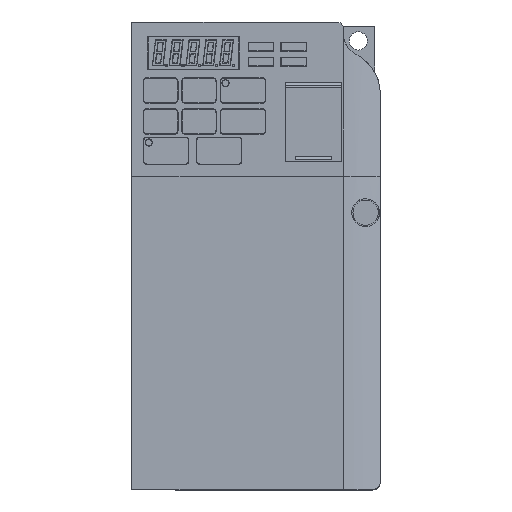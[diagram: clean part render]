
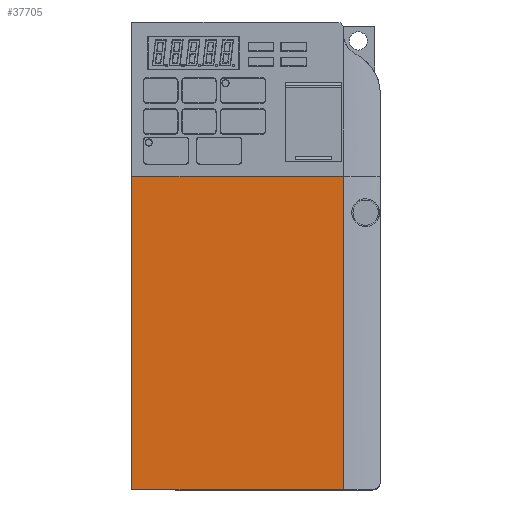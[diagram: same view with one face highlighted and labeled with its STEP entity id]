
A CAD part, top view. The second image highlights one B-rep face of the part: STEP entity #37705.
In plain terms, the highlighted planar face has unit normal (0, 0, 1).
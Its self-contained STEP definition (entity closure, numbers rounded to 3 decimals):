
#37321=DIRECTION('',(0.,1.,0.));
#37322=VECTOR('',#37321,85.8);
#37323=CARTESIAN_POINT('',(-64.,-75.8,8.));
#37324=LINE('',#37323,#37322);
#37405=DIRECTION('',(-1.,0.,0.));
#37406=VECTOR('',#37405,58.);
#37407=CARTESIAN_POINT('',(-6.,-75.8,8.));
#37408=LINE('',#37407,#37406);
#37418=DIRECTION('',(0.,-1.,0.));
#37419=VECTOR('',#37418,85.8);
#37420=CARTESIAN_POINT('',(-6.,10.,8.));
#37421=LINE('',#37420,#37419);
#37435=DIRECTION('',(1.,0.,0.));
#37436=VECTOR('',#37435,58.);
#37437=CARTESIAN_POINT('',(-64.,10.,8.));
#37438=LINE('',#37437,#37436);
#37611=CARTESIAN_POINT('',(-6.,-75.8,8.));
#37612=CARTESIAN_POINT('',(-64.,-75.8,8.));
#37613=VERTEX_POINT('',#37611);
#37614=VERTEX_POINT('',#37612);
#37680=CARTESIAN_POINT('',(-64.,10.,8.));
#37681=VERTEX_POINT('',#37680);
#37682=CARTESIAN_POINT('',(-6.,10.,8.));
#37683=VERTEX_POINT('',#37682);
#37690=CARTESIAN_POINT('',(-30.096,-32.779,8.));
#37691=DIRECTION('',(0.,0.,1.));
#37692=DIRECTION('',(1.,0.,0.));
#37693=AXIS2_PLACEMENT_3D('',#37690,#37691,#37692);
#37694=PLANE('',#37693);
#37696=ORIENTED_EDGE('',*,*,#37695,.T.);
#37698=ORIENTED_EDGE('',*,*,#37697,.T.);
#37700=ORIENTED_EDGE('',*,*,#37699,.T.);
#37702=ORIENTED_EDGE('',*,*,#37701,.T.);
#37703=EDGE_LOOP('',(#37696,#37698,#37700,#37702));
#37704=FACE_OUTER_BOUND('',#37703,.F.);
#37705=ADVANCED_FACE('',(#37704),#37694,.T.);
#37695=EDGE_CURVE('',#37614,#37681,#37324,.T.);
#37697=EDGE_CURVE('',#37681,#37683,#37438,.T.);
#37699=EDGE_CURVE('',#37683,#37613,#37421,.T.);
#37701=EDGE_CURVE('',#37613,#37614,#37408,.T.);
